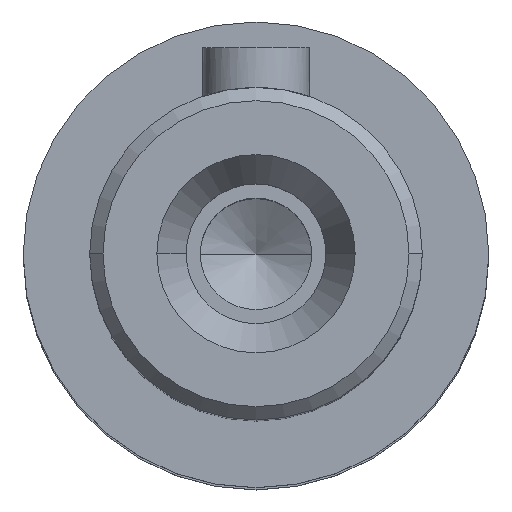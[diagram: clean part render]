
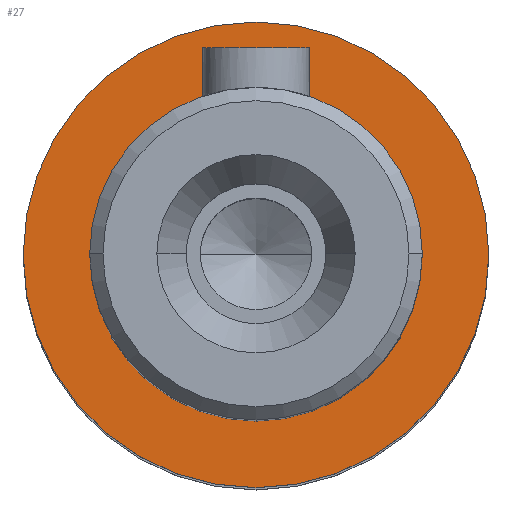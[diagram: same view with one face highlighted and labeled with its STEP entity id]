
A CAD part, top view. The second image highlights one B-rep face of the part: STEP entity #27.
In plain terms, the highlighted planar face has unit normal (0, 0, 1) as drawn and (1, 0, 0) by its records, which use the part's own axes.
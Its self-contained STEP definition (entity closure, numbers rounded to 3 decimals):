
#27=ADVANCED_FACE('',(#66,#54),#469,.T.);
#54=FACE_BOUND('',#103,.T.);
#66=FACE_OUTER_BOUND('',#102,.T.);
#102=EDGE_LOOP('',(#166,#167));
#103=EDGE_LOOP('',(#168,#169));
#166=ORIENTED_EDGE('',*,*,#308,.F.);
#167=ORIENTED_EDGE('',*,*,#269,.F.);
#168=ORIENTED_EDGE('',*,*,#297,.F.);
#169=ORIENTED_EDGE('',*,*,#258,.F.);
#258=EDGE_CURVE('',#423,#445,#320,.T.);
#269=EDGE_CURVE('',#431,#453,#327,.T.);
#297=EDGE_CURVE('',#445,#423,#340,.T.);
#308=EDGE_CURVE('',#453,#431,#347,.T.);
#320=TRIMMED_CURVE($,#354,(#966),(#967),.T.,.CARTESIAN.);
#327=TRIMMED_CURVE($,#361,(#995),(#996),.T.,.CARTESIAN.);
#340=TRIMMED_CURVE($,#374,(#1076),(#1077),.T.,.CARTESIAN.);
#347=TRIMMED_CURVE($,#381,(#1105),(#1106),.T.,.CARTESIAN.);
#354=CIRCLE('',#694,12.5);
#361=CIRCLE('',#701,17.5);
#374=CIRCLE('',#714,12.5);
#381=CIRCLE('',#721,17.5);
#423=VERTEX_POINT('',#925);
#431=VERTEX_POINT('',#933);
#445=VERTEX_POINT('',#947);
#453=VERTEX_POINT('',#955);
#469=PLANE('',#677);
#677=AXIS2_PLACEMENT_3D('',#843,#743,$);
#694=AXIS2_PLACEMENT_3D($,#965,#760,#761);
#701=AXIS2_PLACEMENT_3D($,#994,#774,#775);
#714=AXIS2_PLACEMENT_3D($,#1075,#800,#801);
#721=AXIS2_PLACEMENT_3D($,#1104,#814,#815);
#743=DIRECTION('',(1.,0.,0.));
#760=DIRECTION('',(1.,0.,0.));
#761=DIRECTION('',(0.,0.,-1.));
#774=DIRECTION('',(-1.,0.,0.));
#775=DIRECTION('',(0.,0.,-1.));
#800=DIRECTION('',(1.,0.,0.));
#801=DIRECTION('',(0.,0.,1.));
#814=DIRECTION('',(-1.,0.,0.));
#815=DIRECTION('',(0.,0.,1.));
#843=CARTESIAN_POINT('',(49.5,-21.06,-21.06));
#925=CARTESIAN_POINT('',(49.5,0.,-12.5));
#933=CARTESIAN_POINT('',(49.5,0.,-17.5));
#947=CARTESIAN_POINT('',(49.5,0.,12.5));
#955=CARTESIAN_POINT('',(49.5,0.,17.5));
#965=CARTESIAN_POINT('',(49.5,0.,0.));
#966=CARTESIAN_POINT('',(49.5,0.,-12.5));
#967=CARTESIAN_POINT('',(49.5,0.,12.5));
#994=CARTESIAN_POINT('',(49.5,0.,0.));
#995=CARTESIAN_POINT('',(49.5,0.,-17.5));
#996=CARTESIAN_POINT('',(49.5,0.,17.5));
#1075=CARTESIAN_POINT('',(49.5,0.,0.));
#1076=CARTESIAN_POINT('',(49.5,0.,12.5));
#1077=CARTESIAN_POINT('',(49.5,0.,-12.5));
#1104=CARTESIAN_POINT('',(49.5,0.,0.));
#1105=CARTESIAN_POINT('',(49.5,0.,17.5));
#1106=CARTESIAN_POINT('',(49.5,0.,-17.5));
